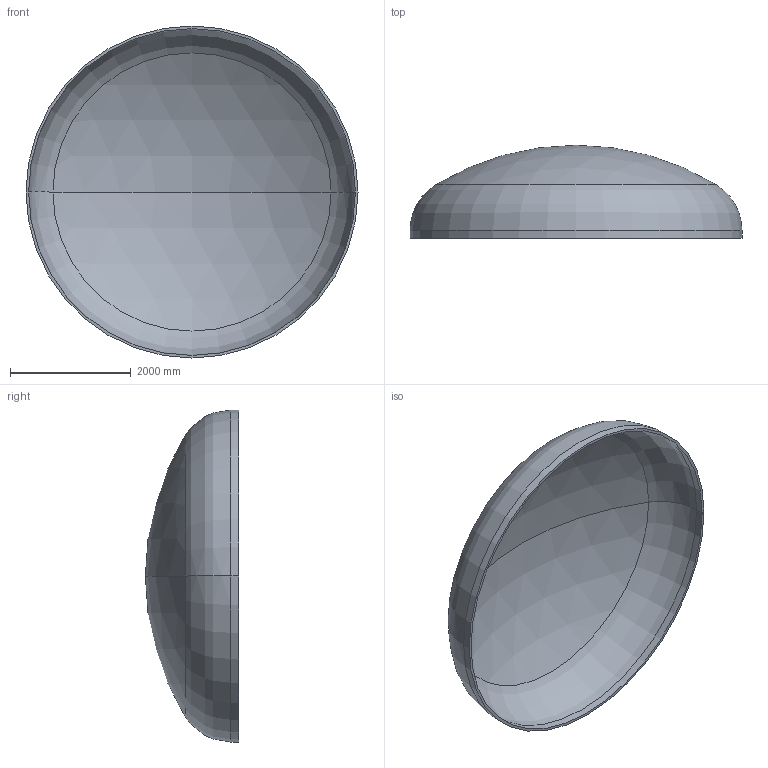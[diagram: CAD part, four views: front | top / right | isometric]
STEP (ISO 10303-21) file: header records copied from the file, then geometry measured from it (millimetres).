
FILE_DESCRIPTION (( 'STEP AP203' ), '1' );
FILE_NAME ('DIN 28013 Korbbogenform_-_Boden DIN 28013 - 5500 x 130 - I - s=43.step', '2016-07-04T10:34:12', ( '' ), ( '' ), 'SwSTEP 2.0', 'SolidWorks 2013', '' );
FILE_SCHEMA (( 'CONFIG_CONTROL_DESIGN' ));
Length unit declared in the file: millimetre
Products named in the file (1): DIN 28013 Korbbogenform_-_Boden DIN 28013 - 5500 x 130 - I - s=43
Bounding box: 5500 x 1544.64 x 5500 mm (x, y, z)
Volume: 1495554840.4 mm3; surface area: 70301714.1 mm2
Topology: 1 solids, 1 shells, 13 faces, 24 edges, 14 vertices
Faces by surface type: torus 4, cylinder 4, sphere 4, plane 1
Entity records: 407 total; most frequent: DIRECTION 72, CARTESIAN_POINT 52, ORIENTED_EDGE 48, AXIS2_PLACEMENT_3D 34, EDGE_CURVE 24, CIRCLE 20, EDGE_LOOP 14, VERTEX_POINT 14
